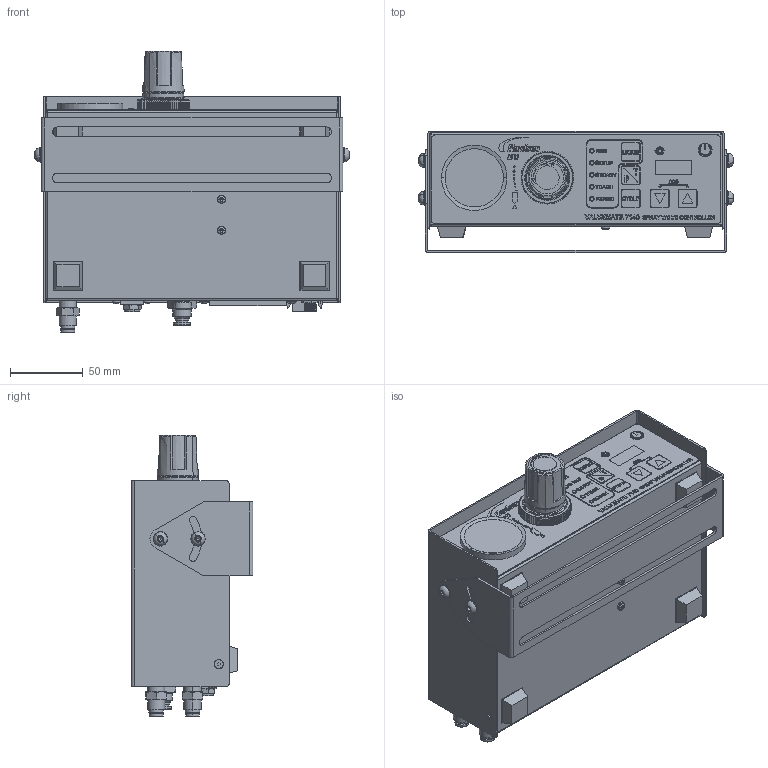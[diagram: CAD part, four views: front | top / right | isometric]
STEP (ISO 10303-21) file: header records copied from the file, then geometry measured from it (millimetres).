
FILE_DESCRIPTION (( 'STEP AP214' ), '1' );
FILE_NAME ('NORDSONEFD-7015341 CONTROLLER 7140 SPRAY VALVE 0-30 PSI.STEP', '2018-12-14T18:33:54', ( '' ), ( '' ), 'SwSTEP 2.0', 'SolidWorks 2018', '' );
FILE_SCHEMA (( 'AUTOMOTIVE_DESIGN' ));
Length unit declared in the file: inch
Products named in the file (1): NORDSONEFD-7015341 CONTROLLER 7140 SPRAY VALVE 0-30 PSI
Bounding box: 215.82 x 83.53 x 193.13 mm (x, y, z)
Volume: 1814540.7 mm3; surface area: 185494 mm2
Topology: 1 solids, 1 shells, 6010 faces, 15582 edges, 10108 vertices
Faces by surface type: plane 3623, bspline 1314, cylinder 603, cone 362, torus 98, sphere 10
Entity records: 261578 total; most frequent: CARTESIAN_POINT 107279, ORIENTED_EDGE 31132, DIRECTION 23716, EDGE_CURVE 15566, LINE 10342, VECTOR 10342, VERTEX_POINT 10106, AXIS2_PLACEMENT_3D 6687
